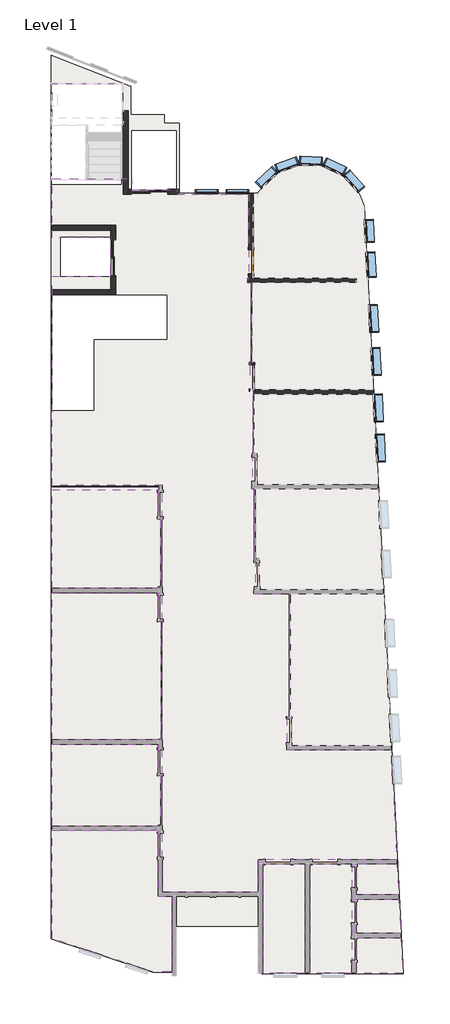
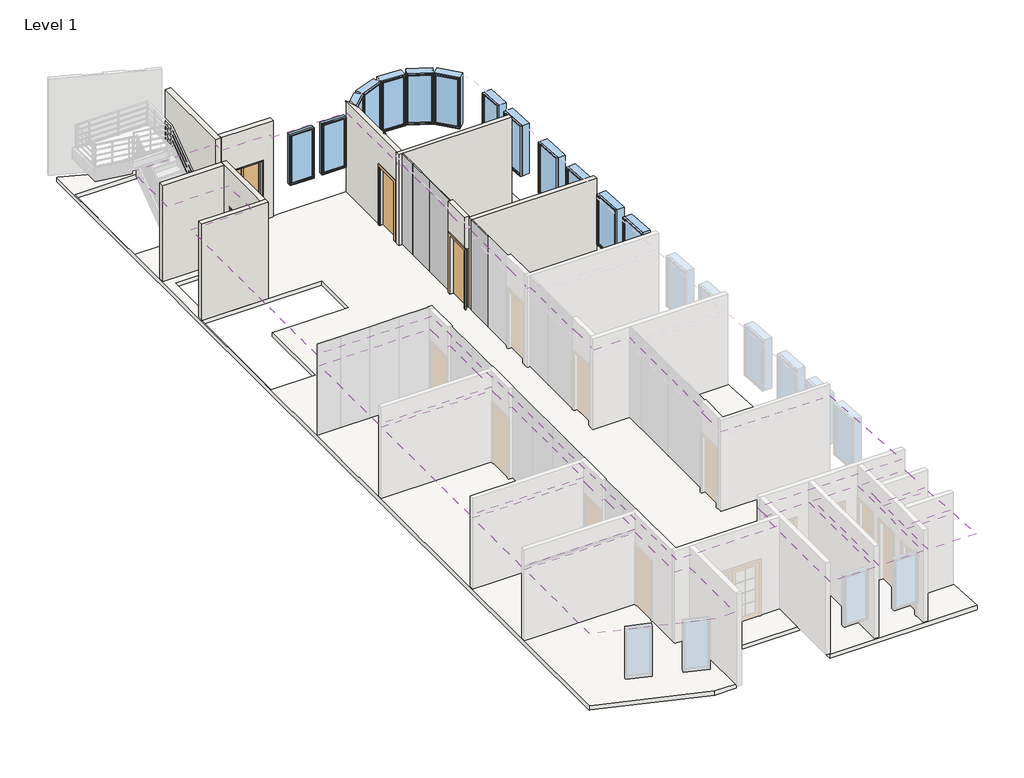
# One storey, part 2 of 4: 13 windows, 10 coverings, 9 walls, 4 doors, 4 plates, 1 proxy, 1 slab.
"""IFC4 building model written with IfcOpenShell, lengths in millimetres."""

from ifc_helpers import new_model, si_unit, frame, origin, place, context, project, spatial, polyline, circle_curve, outline, extrude, faceted_brep, transform, mapped, element, save
from ifc_brep_helpers import plane_surface, cylinder_surface, advanced_brep
from components import m_single_flush_0864_x_2134mm_191ab4f9, sliding_door_2_panel_aus_f73f6a40, system_panel_glazed_2a0647fb, system_panel_glazed_84f5b725, system_panel_glazed_2528ea48, system_panel_glazed_62de9183, m_fixed_0815_x_1830mm_2_6a11e188, m_fixed_0815_x_1830mm_2_422ed95c, m_fixed_0915_x_1830mm_9602f45c, m_fixed_1000_x_1830mm_2_ae03b894

model = new_model("IFC4")

# Units and contexts
model_context = context("Model", 3, world=origin())
ifc_project = project(units=[si_unit("LENGTHUNIT", "METRE", prefix="MILLI")], contexts=[model_context])

# Site, building, storey
site = spatial("IfcSite", under=ifc_project)
building = spatial("IfcBuilding", under=site)
storey = spatial("IfcBuildingStorey", under=building, Name="Level 1", Elevation=4500.0)

# Proxy
placement = place(None, origin())
element("IfcBuildingElementProxy", 1, Name="Reveal", ObjectType="Reveal", at=placement, inside=storey, context=model_context, shape_type="SweptSolid", body=[
    extrude(outline(polyline([(7125.5392732, 8006.7405588), (7175.5392732, 8006.7405588), (7175.5392732, 7956.7405588), (7125.5392732, 7956.7405588), (7125.5392732, 8006.7405588)])), frame((0.0, 0.0, 4500.0), z_axis=(0.0, 0.0, 1.0), x_axis=(1.0, 0.0, 0.0)), (0.0, 0.0, 1.0), 3300.0),
])

# Coverings
element("IfcCovering", 2, ObjectType="600 x 600mm Grid", at=placement, inside=storey, context=model_context, shape_type="SweptSolid", body=[
    extrude(outline(polyline([(10692.5716703, -17945.5937279), (9172.571739, -17945.5937279), (9172.571739, -14027.5279318), (10692.5716703, -14027.5279318), (10692.5716703, -17945.5937279)])), frame((0.0, 0.0, 7100.0), z_axis=(0.0, 0.0, 1.0), x_axis=(1.0, 0.0, 0.0)), (0.0, 0.0, 1.0), 52.0),
])
element("IfcCovering", 3, ObjectType="600 x 600mm Grid", at=placement, inside=storey, context=model_context, shape_type="SweptSolid", body=[
    extrude(outline(polyline([(10852.5716703, -14027.5279318), (12305.1044502, -14027.5279318), (12361.6220521, -15137.5279318), (10852.5716703, -15137.5279318), (10852.5716703, -14027.5279318)])), frame((0.0, 0.0, 7100.0), z_axis=(0.0, 0.0, 1.0), x_axis=(1.0, 0.0, 0.0)), (0.0, 0.0, 1.0), 52.0),
])
element("IfcCovering", 4, ObjectType="600 x 600mm Grid", at=placement, inside=storey, context=model_context, shape_type="SweptSolid", body=[
    extrude(outline(polyline([(12369.7687334, -15297.5279318), (12431.8871787, -16517.5279318), (10852.5716703, -16517.5279318), (10852.5716703, -15297.5279318), (12369.7687334, -15297.5279318)])), frame((0.0, 0.0, 7100.0), z_axis=(0.0, 0.0, 1.0), x_axis=(1.0, 0.0, 0.0)), (0.0, 0.0, 1.0), 52.0),
])
element("IfcCovering", 5, ObjectType="600 x 600mm Grid", at=placement, inside=storey, context=model_context, shape_type="SweptSolid", body=[
    extrude(outline(polyline([(12440.0338601, -16677.5279318), (12504.5996599, -17945.5937279), (10852.5716703, -17945.5937279), (10852.5716703, -16677.5279318), (12440.0338601, -16677.5279318)])), frame((0.0, 0.0, 7100.0), z_axis=(0.0, 0.0, 1.0), x_axis=(1.0, 0.0, 0.0)), (0.0, 0.0, 1.0), 52.0),
])
element("IfcCovering", 6, ObjectType="600 x 600mm Grid", at=placement, inside=storey, context=model_context, shape_type="SweptSolid", body=[
    extrude(outline(polyline([(3550.1139966, -17890.1949362), (-50.0000039, -16704.4650439), (-50.0000039, -12823.8791407), (3749.6376114, -12823.8791407), (3749.6376114, -15185.1933026), (4250.0200506, -15185.1933026), (4250.0200506, -17890.1949362), (3550.1139966, -17890.1949362)])), frame((0.0, 0.0, 7100.0), z_axis=(0.0, 0.0, 1.0), x_axis=(1.0, 0.0, 0.0)), (0.0, 0.0, 1.0), 52.0),
])
element("IfcCovering", 7, ObjectType="600 x 600mm Grid", at=placement, inside=storey, context=model_context, shape_type="SweptSolid", body=[
    extrude(outline(polyline([(-50.0000039, -12673.8791407), (-50.0000039, -9737.5773389), (3749.6376114, -9737.5773389), (3749.6376114, -10857.1675364), (3824.6376114, -10857.1675364), (3824.6376114, -11957.1675364), (3824.6376114, -12673.8791407), (-50.0000039, -12673.8791407)])), frame((0.0, 0.0, 7100.0), z_axis=(0.0, 0.0, 1.0), x_axis=(1.0, 0.0, 0.0)), (0.0, 0.0, 1.0), 52.0),
])
element("IfcCovering", 8, ObjectType="600 x 600mm Grid", at=placement, inside=storey, context=model_context, shape_type="SweptSolid", body=[
    extrude(outline(polyline([(-50.0000039, -9587.5773389), (-50.0000039, -4303.7038617), (3749.6376114, -4303.7038617), (3749.6376114, -5337.1675364), (3834.6376114, -5337.1675364), (3834.6376114, -6537.1675364), (3834.6376114, -7737.1675364), (3834.6376114, -8940.5298497), (3834.6376114, -9587.5773389), (-50.0000039, -9587.5773389)])), frame((0.0, 0.0, 7100.0), z_axis=(0.0, 0.0, 1.0), x_axis=(1.0, 0.0, 0.0)), (0.0, 0.0, 1.0), 52.0),
])
element("IfcCovering", 9, ObjectType="600 x 600mm Grid", at=placement, inside=storey, context=model_context, shape_type="SweptSolid", body=[
    extrude(outline(polyline([(-50.0000039, -4153.7038617), (-50.0000039, -617.1675364), (3749.6376114, -617.1675364), (3749.6376114, -1677.1675364), (3824.6376114, -1677.1675364), (3824.6376114, -2977.1675364), (3824.6376114, -4153.7038617), (-50.0000039, -4153.7038617)])), frame((0.0, 0.0, 7100.0), z_axis=(0.0, 0.0, 1.0), x_axis=(1.0, 0.0, 0.0)), (0.0, 0.0, 1.0), 52.0),
])
element("IfcCovering", 10, ObjectType="600 x 600mm Grid", at=placement, inside=storey, context=model_context, shape_type="SweptSolid", body=[
    extrude(outline(polyline([(9012.571739, -17945.5937279), (7490.0200629, -17945.5937279), (7490.0200629, -14027.5279318), (9012.571739, -14027.5279318), (9012.571739, -17945.5937279)])), frame((0.0, 0.0, 7100.0), z_axis=(0.0, 0.0, 1.0), x_axis=(1.0, 0.0, 0.0)), (0.0, 0.0, 1.0), 52.0),
])
element("IfcCovering", 11, ObjectType="600 x 600mm Grid", at=placement, inside=storey, context=model_context, shape_type="SweptSolid", body=[
    extrude(outline(polyline([(3899.6376114, -15035.1933026), (3899.6376114, -12637.1675364), (3874.1376114, -12637.1675364), (3874.1376114, -10857.1675364), (3899.6376114, -10857.1675364), (3899.6376114, -9557.1675364), (3884.1376114, -9557.1675364), (3884.1376114, -5337.1675364), (3899.6376114, -5337.1675364), (3899.6376114, -4097.1675364), (3874.1376114, -4097.1675364), (3874.1376114, -1677.1675364), (3899.6376114, -1677.1675364), (3899.6376114, -467.1675364), (-50.0000039, -467.1675364), (-50.0000039, 6351.9438364), (-50.0000039, 7031.9438364), (1989.9999961, 7031.9438364), (2049.9999961, 7031.9438364), (2049.9999961, 8411.9438364), (-50.0000039, 8411.9438364), (-50.0000039, 10511.9438364), (2429.9999961, 10511.9438364), (2800.0008657, 10511.9438364), (2800.0008657, 10131.7405588), (4440.0008657, 10131.7405588), (4440.0008657, 9971.7405588), (7000.0008657, 9971.7405588), (7000.0008657, 6951.7405588), (6960.0008657, 6951.7405588), (6960.0008657, 6798.0466284), (7080.0008657, 6798.0466284), (7080.0008657, 3958.0466284), (7035.1048556, 3958.0466284), (7035.1048556, 2991.3126445), (7135.1048556, 2991.3126445), (7145.1048556, 2991.3126445), (7145.1048556, 2806.3126445), (7145.1048556, 686.3126445), (7122.8570765, 686.3126445), (7122.8570765, -443.7647178), (7102.8570765, -443.7647178), (7102.8570765, -593.8224093), (7199.8137467, -593.8224093), (7199.8137467, -3107.2928434), (7224.8137467, -3107.2928434), (7224.8137467, -4205.3047697), (7177.3194387, -4205.3047697), (7177.3194387, -4355.3047697), (8450.4667664, -4355.3047697), (8450.4667664, -8765.3047697), (8360.4667664, -8765.3047697), (8360.4667664, -9940.0867626), (12096.9851954, -9940.0867626), (12297.4042284, -13877.5279318), (7341.4929603, -13877.5279318), (7341.4929603, -15035.1933026), (3899.6376114, -15035.1933026)])), frame((0.0, 0.0, 7400.0), z_axis=(0.0, 0.0, 1.0), x_axis=(1.0, 0.0, 0.0)), (0.0, 0.0, 1.0), 52.0),
])

# Doors
m_single_flush_0864_x_2134mm_shape = m_single_flush_0864_x_2134mm_191ab4f9(model_context)
element("IfcDoor", 12, ObjectType="M_Single-Flush : 0864 x 2134mm", at=placement, inside=storey, context=model_context, shape_type="MappedRepresentation", body=[
    mapped(m_single_flush_0864_x_2134mm_shape, transform((7075.5392732, 7549.7405588, 4500.0), x_axis=(0.0, -1.0, 0.0), y_axis=(1.0, 0.0, 0.0), z_axis=(0.0, 0.0, 1.0))),
])
element("IfcDoor", 13, ObjectType="M_Single-Flush : 0864 x 2134mm", at=placement, inside=storey, context=model_context, shape_type="MappedRepresentation", body=[
    mapped(m_single_flush_0864_x_2134mm_shape, transform((7110.1048556, 3423.3126445, 4500.0), x_axis=(0.0, -1.0, 0.0), y_axis=(1.0, 0.0, 0.0), z_axis=(0.0, 0.0, 1.0))),
])
sliding_door_2_panel_aus_shape = sliding_door_2_panel_aus_f73f6a40(model_context)
element("IfcDoor", 14, ObjectType="Sliding Door - 2 Panel (AUS) : elavator door", at=placement, inside=storey, context=model_context, shape_type="MappedRepresentation", body=[
    mapped(sliding_door_2_panel_aus_shape, transform((3525.434997, 10046.9423839, 4500.0), x_axis=(-1.0, 0.0, 0.0), y_axis=(0.0, -1.0, 0.0), z_axis=(0.0, 0.0, 1.0))),
])
element("IfcDoor", 15, ObjectType="Sliding Door - 2 Panel (AUS) : elavator door", at=placement, inside=storey, context=model_context, shape_type="MappedRepresentation", body=[
    mapped(sliding_door_2_panel_aus_shape, transform((2139.9709975, 7777.6976347, 4500.0), x_axis=(0.0, -1.0, 0.0), y_axis=(1.0, 0.0, 0.0), z_axis=(0.0, 0.0, 1.0))),
])

# Plates
system_panel_glazed_shape = system_panel_glazed_2a0647fb(model_context)
element("IfcPlate", 16, ObjectType="System Panel : Glazed", at=placement, inside=storey, context=model_context, shape_type="MappedRepresentation", body=[
    mapped(system_panel_glazed_shape, transform((7197.8570765, 2304.8200321, 4500.0), x_axis=(0.0, 1.0, 0.0), y_axis=(-1.0, 0.0, 0.0), z_axis=(0.0, 0.0, 1.0))),
])
system_panel_glazed_2_shape = system_panel_glazed_84f5b725(model_context)
element("IfcPlate", 17, ObjectType="System Panel : Glazed", at=placement, inside=storey, context=model_context, shape_type="MappedRepresentation", body=[
    mapped(system_panel_glazed_2_shape, transform((7130.5392732, 4570.7828627, 4500.0), x_axis=(0.0, 1.0, 0.0), y_axis=(-1.0, 0.0, 0.0), z_axis=(0.0, 0.0, 1.0))),
])
system_panel_glazed_3_shape = system_panel_glazed_2528ea48(model_context)
element("IfcPlate", 18, ObjectType="System Panel : Glazed", at=placement, inside=storey, context=model_context, shape_type="MappedRepresentation", body=[
    mapped(system_panel_glazed_3_shape, transform((7130.5392732, 5670.7828627, 4500.0), x_axis=(0.0, 1.0, 0.0), y_axis=(-1.0, 0.0, 0.0), z_axis=(0.0, 0.0, 1.0))),
])
system_panel_glazed_4_shape = system_panel_glazed_62de9183(model_context)
element("IfcPlate", 19, ObjectType="System Panel : Glazed", at=placement, inside=storey, context=model_context, shape_type="MappedRepresentation", body=[
    mapped(system_panel_glazed_4_shape, transform((7130.5392732, 6484.5955529, 4500.0), x_axis=(0.0, 1.0, 0.0), y_axis=(-1.0, 0.0, 0.0), z_axis=(0.0, 0.0, 1.0))),
])

# Slab
element("IfcSlab", 20, ObjectType="Generic 150mm", at=placement, inside=storey, context=model_context, shape_type="AdvancedBrep", body=[
    advanced_brep(
    [(12535.6568577, -17965.5937279, 4350.0), (12505.6179951, -17965.5937279, 4350.0), (7460.0200629, -17965.5937279, 4350.0), (7460.0200629, -17945.5937279, 4350.0), (7460.0200629, -16255.1937279, 4350.0), (4280.0200506, -16255.1937279, 4350.0), (4280.0200506, -17910.1949362, 4350.0), (4250.0200506, -17910.1949362, 4350.0), (3546.9051875, -17910.1949362, 4350.0), (-50.0000039, -16725.521894, 4350.0), (-80.0000039, -16715.6411245, 4350.0), (-80.0000039, 6751.9670663, 4350.0), (-80.0000039, 6931.9670663, 4350.0), (-80.0000039, 8531.9436159, 4350.0), (-80.0000039, 8711.9436159, 4350.0), (-80.0000039, 9089.4957276, 4350.0), (-80.0000039, 9269.4957276, 4350.0), (-80.0000039, 14915.2577927, 4350.0), (-80.0000039, 14947.4914079, 4350.0), (-50.0290025, 14935.7127261, 4350.0), (2740.0008706, 13839.2237105, 4350.0), (2770.0008706, 13827.4336322, 4350.0), (2770.0008706, 12981.9409286, 4350.0), (2770.0008706, 12811.9409286, 4350.0), (3860.156273, 12811.9409286, 4350.0), (3960.156273, 12811.9409286, 4350.0), (3960.156273, 12681.9409286, 4350.0), (3960.156273, 12511.9409286, 4350.0), (4500.0008952, 12511.9409286, 4350.0), (4500.0008952, 12481.9409286, 4350.0), (4500.0008952, 10001.7405588, 4350.0), (4670.0008952, 10001.7405588, 4350.0), (7318.9004405, 10001.7405588, 4350.0), (7398.5356925, 10131.7451239, 4350.0), (11135.2678798, 9537.9045335, 4350.0), (4400.153558, 12231.9409286, 4350.0), (2800.0008657, 12231.9409286, 4350.0), (2800.0008657, 10131.9436225, 4350.0), (2800.0008657, 10131.7405588, 4350.0), (4399.6302337, 10131.7405588, 4350.0), (4400.153558, 10131.7405588, 4350.0), (2050.0008632, 8431.9409233, 4350.0), (250.2948674, 8431.9409233, 4350.0), (250.2948674, 7031.9409165, 4350.0), (2050.0008632, 7031.9409165, 4350.0), (-50.2184072, 6351.9438364, 4350.0), (-50.2184072, 2226.9438392, 4350.0), (-50.0000039, 2226.9438392, 4350.0), (1447.7916679, 2226.9438392, 4350.0), (1447.7916679, 4776.9438392, 4350.0), (4055.0000043, 4776.9438392, 4350.0), (4055.0000043, 6351.9438364, 4350.0), (-50.0000039, 6351.9438364, 4350.0), (2476.8607589, 13901.5570443, 4350.0), (2419.6668671, 13901.5570443, 4350.0), (-50.0000039, 13901.5570443, 4350.0), (-50.0000039, 12568.8506586, 4350.0), (-60.0290025, 12568.8506586, 4350.0), (-60.0290025, 10328.8506586, 4350.0), (-50.0000039, 10328.8506586, 4350.0), (2419.6668671, 10328.8506586, 4350.0), (2419.6668671, 10481.5722364, 4350.0), (2476.8607589, 10481.5722364, 4350.0), (7460.0200629, -17965.5937279, 4500.0), (12505.6179951, -17965.5937279, 4500.0), (12535.6568577, -17965.5937279, 4500.0), (11135.2678798, 9537.9045335, 4500.0), (7398.5356925, 10131.7451239, 4500.0), (7318.9004405, 10001.7405588, 4500.0), (4670.0008952, 10001.7405588, 4500.0), (4500.0008952, 10001.7405588, 4500.0), (4500.0008952, 12481.9409286, 4500.0), (4500.0008952, 12511.9409286, 4500.0), (3960.156273, 12511.9409286, 4500.0), (3960.156273, 12681.9409286, 4500.0), (3960.156273, 12811.9409286, 4500.0), (3860.156273, 12811.9409286, 4500.0), (2770.0008706, 12811.9409286, 4500.0), (2770.0008706, 12981.9409286, 4500.0), (2770.0008706, 13827.4336322, 4500.0), (2740.0008706, 13839.2237105, 4500.0), (-50.0290025, 14935.7127261, 4500.0), (-80.0000039, 14947.4914079, 4500.0), (-80.0000039, 14915.2577927, 4500.0), (-80.0000039, 9269.4957276, 4500.0), (-80.0000039, 9089.4957276, 4500.0), (-80.0000039, 8711.9436159, 4500.0), (-80.0000039, 8531.9436159, 4500.0), (-80.0000039, 6931.9670663, 4500.0), (-80.0000039, 6751.9670663, 4500.0), (-80.0000039, -16715.6411245, 4500.0), (-50.0000039, -16725.521894, 4500.0), (3546.9051875, -17910.1949362, 4500.0), (4250.0200506, -17910.1949362, 4500.0), (4280.0200506, -17910.1949362, 4500.0), (4280.0200506, -16255.1937279, 4500.0), (7460.0200629, -16255.1937279, 4500.0), (7460.0200629, -17945.5937279, 4500.0), (2800.0008657, 12231.9409286, 4500.0), (4400.153558, 12231.9409286, 4500.0), (4400.153558, 10131.7405588, 4500.0), (4399.6302337, 10131.7405588, 4500.0), (2800.0008657, 10131.7405588, 4500.0), (2800.0008657, 10131.9436225, 4500.0), (250.2948674, 8431.9409233, 4500.0), (2050.0008632, 8431.9409233, 4500.0), (2050.0008632, 7031.9409165, 4500.0), (250.2948674, 7031.9409165, 4500.0), (-50.2184072, 2226.9438392, 4500.0), (-50.2184072, 6351.9438364, 4500.0), (-50.0000039, 6351.9438364, 4500.0), (4055.0000043, 6351.9438364, 4500.0), (4055.0000043, 4776.9438392, 4500.0), (1447.7916679, 4776.9438392, 4500.0), (1447.7916679, 2226.9438392, 4500.0), (-50.0000039, 2226.9438392, 4500.0), (-50.0000039, 13901.5570443, 4500.0), (2419.6668671, 13901.5570443, 4500.0), (2476.8607589, 13901.5570443, 4500.0), (2476.8607589, 10481.5722364, 4500.0), (2419.6668671, 10481.5722364, 4500.0), (2419.6668671, 10328.8506586, 4500.0), (-50.0000039, 10328.8506586, 4500.0), (-60.0290025, 10328.8506586, 4500.0), (-60.0290025, 12568.8506586, 4500.0), (-50.0000039, 12568.8506586, 4500.0)],
    [
        (0, 1),
        (1, 2),
        (2, 3),
        (3, 4),
        (4, 5),
        (5, 6),
        (6, 7),
        (7, 8),
        (8, 9),
        (9, 10),
        (10, 11),
        (11, 12),
        (12, 13),
        (13, 14),
        (14, 15),
        (15, 16),
        (16, 17),
        (17, 18),
        (18, 19),
        (19, 20),
        (20, 21),
        (21, 22),
        (22, 23),
        (23, 24),
        (24, 25),
        (25, 26),
        (26, 27),
        (27, 28),
        (28, 29),
        (29, 30),
        (30, 31),
        (31, 32),
        (32, 33, circle_curve(frame((9131.2105116, 8980.9897456, 4350.0), z_axis=(0.0, 0.0, -1.0), x_axis=(1.0, 0.0, 0.0)), 2080.0000039)),
        (33, 34, circle_curve(frame((9131.2105116, 8980.9897456, 4350.0), z_axis=(0.0, 0.0, -1.0), x_axis=(1.0, 0.0, 0.0)), 2079.9999926)),
        (34, 0),
        (35, 36),
        (36, 37),
        (37, 38),
        (38, 39),
        (39, 40),
        (40, 35),
        (41, 42),
        (42, 43),
        (43, 44),
        (44, 41),
        (45, 46),
        (46, 47),
        (47, 48),
        (48, 49),
        (49, 50),
        (50, 51),
        (51, 52),
        (52, 45),
        (53, 54),
        (54, 55),
        (55, 56),
        (56, 57),
        (57, 58),
        (58, 59),
        (59, 60),
        (60, 61),
        (61, 62),
        (62, 53),
        (63, 64),
        (64, 65),
        (65, 66),
        (66, 67, circle_curve(frame((9131.2105116, 8980.9897456, 4500.0), z_axis=(0.0, 0.0, 1.0), x_axis=(1.0, 0.0, 0.0)), 2080.0000039)),
        (67, 68, circle_curve(frame((9131.2105116, 8980.9897456, 4500.0), z_axis=(0.0, 0.0, 1.0), x_axis=(1.0, 0.0, 0.0)), 2079.9999926)),
        (68, 69),
        (69, 70),
        (70, 71),
        (71, 72),
        (72, 73),
        (73, 74),
        (74, 75),
        (75, 76),
        (76, 77),
        (77, 78),
        (78, 79),
        (79, 80),
        (80, 81),
        (81, 82),
        (82, 83),
        (83, 84),
        (84, 85),
        (85, 86),
        (86, 87),
        (87, 88),
        (88, 89),
        (89, 90),
        (90, 91),
        (91, 92),
        (92, 93),
        (93, 94),
        (94, 95),
        (95, 96),
        (96, 97),
        (97, 63),
        (98, 99),
        (99, 100),
        (100, 101),
        (101, 102),
        (102, 103),
        (103, 98),
        (104, 105),
        (105, 106),
        (106, 107),
        (107, 104),
        (108, 109),
        (109, 110),
        (110, 111),
        (111, 112),
        (112, 113),
        (113, 114),
        (114, 115),
        (115, 108),
        (116, 117),
        (117, 118),
        (118, 119),
        (119, 120),
        (120, 121),
        (121, 122),
        (122, 123),
        (123, 124),
        (124, 125),
        (125, 116),
        (0, 65),
        (63, 2),
        (96, 4),
        (95, 5),
        (94, 6),
        (92, 8),
        (90, 10),
        (82, 18),
        (79, 21),
        (77, 23),
        (75, 25),
        (73, 27),
        (72, 28),
        (70, 30),
        (68, 32),
        (66, 34),
        (53, 118),
        (116, 55),
        (125, 56),
        (119, 62),
        (61, 120),
        (35, 99),
        (98, 36),
        (102, 38),
        (100, 40),
        (41, 105),
        (104, 42),
        (107, 43),
        (106, 44),
        (45, 109),
        (108, 46),
        (114, 48),
        (113, 49),
        (112, 50),
        (111, 51),
        (57, 124),
        (123, 58),
        (121, 60),
    ],
    [
        plane_surface(frame((7460.0200629, -17965.5937279, 4350.0), z_axis=(0.0, 0.0, -1.0), x_axis=(-1.0, 0.0, 0.0))),
        plane_surface(frame((7460.0200629, -17965.5937279, 4500.0), z_axis=(0.0, 0.0, 1.0), x_axis=(1.0, 0.0, 0.0))),
        plane_surface(frame((12535.6568577, -17965.5937279, 4350.0), z_axis=(0.0, -1.0, 0.0), x_axis=(0.0, 0.0, 1.0))),
        plane_surface(frame((7460.0200629, -17965.5937279, 4350.0), z_axis=(-1.0, 0.0, 0.0), x_axis=(0.0, 0.0, 1.0))),
        plane_surface(frame((7460.0200629, -16255.1937279, 4350.0), z_axis=(0.0, -1.0, 0.0), x_axis=(0.0, 0.0, 1.0))),
        plane_surface(frame((4280.0200506, -16255.1937279, 4350.0), z_axis=(1.0, 0.0, 0.0), x_axis=(0.0, 0.0, 1.0))),
        plane_surface(frame((4280.0200506, -17910.1949362, 4350.0), z_axis=(0.0, -1.0, 0.0), x_axis=(0.0, 0.0, 1.0))),
        plane_surface(frame((3546.9051875, -17910.1949362, 4350.0), z_axis=(-0.31282835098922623, -0.94980967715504, 0.0), x_axis=(0.0, 0.0, 1.0))),
        plane_surface(frame((-80.0000039, -16715.6411245, 4350.0), z_axis=(-1.0, 0.0, 0.0), x_axis=(0.0, 0.0, 1.0))),
        plane_surface(frame((-80.0000039, 14947.4914079, 4350.0), z_axis=(0.36576965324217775, 0.9307054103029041, 0.0), x_axis=(0.0, 0.0, 1.0))),
        plane_surface(frame((2770.0008706, 13827.4336322, 4350.0), z_axis=(1.0, 0.0, 0.0), x_axis=(0.0, 0.0, 1.0))),
        plane_surface(frame((2770.0008706, 12811.9409286, 4350.0), z_axis=(0.0, 1.0, 0.0), x_axis=(0.0, 0.0, 1.0))),
        plane_surface(frame((3960.156273, 12811.9409286, 4350.0), z_axis=(1.0, 0.0, 0.0), x_axis=(0.0, 0.0, 1.0))),
        plane_surface(frame((3960.156273, 12511.9409286, 4350.0), z_axis=(0.0, 1.0, 0.0), x_axis=(0.0, 0.0, 1.0))),
        plane_surface(frame((4500.0008952, 12511.9409286, 4350.0), z_axis=(1.0, 0.0, 0.0), x_axis=(0.0, 0.0, 1.0))),
        plane_surface(frame((4500.0008952, 10001.7405588, 4350.0), z_axis=(0.0, 1.0, 0.0), x_axis=(0.0, 0.0, 1.0))),
        cylinder_surface(frame((9131.2105116, 8980.9897456, 4500.0), z_axis=(0.0, 0.0, -1.0), x_axis=(1.0, 0.0, 0.0)), 2080.0000039),
        plane_surface(frame((11135.2678798, 9537.9045335, 4350.0), z_axis=(0.9987062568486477, 0.050850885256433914, 0.0), x_axis=(0.0, 0.0, 1.0))),
        plane_surface(frame((2476.8607589, 13901.5570443, 4350.0), z_axis=(0.0, -1.0, 0.0), x_axis=(0.0, 0.0, 1.0))),
        plane_surface(frame((-50.0000039, 13901.5570443, 4350.0), z_axis=(1.0, 0.0, 0.0), x_axis=(0.0, 0.0, 1.0))),
        plane_surface(frame((-50.0000039, 10481.5722364, 4350.0), z_axis=(0.0, 1.0, 0.0), x_axis=(0.0, 0.0, 1.0))),
        plane_surface(frame((2476.8607589, 10481.5722364, 4350.0), z_axis=(-1.0, 0.0, 0.0), x_axis=(0.0, 0.0, 1.0))),
        plane_surface(frame((4400.153558, 12231.9409286, 4350.0), z_axis=(0.0, -1.0, 0.0), x_axis=(0.0, 0.0, 1.0))),
        plane_surface(frame((2800.0008657, 12231.9409286, 4350.0), z_axis=(1.0, 0.0, 0.0), x_axis=(0.0, 0.0, 1.0))),
        plane_surface(frame((2800.0008657, 10131.7405588, 4350.0), z_axis=(0.0, 1.0, 0.0), x_axis=(0.0, 0.0, 1.0))),
        plane_surface(frame((4400.153558, 10131.7405588, 4350.0), z_axis=(-1.0, 0.0, 0.0), x_axis=(0.0, 0.0, 1.0))),
        plane_surface(frame((2050.0008632, 8431.9409233, 4350.0), z_axis=(0.0, -1.0, 0.0), x_axis=(0.0, 0.0, 1.0))),
        plane_surface(frame((250.2948674, 8431.9409233, 4350.0), z_axis=(1.0, 0.0, 0.0), x_axis=(0.0, 0.0, 1.0))),
        plane_surface(frame((250.2948674, 7031.9409165, 4350.0), z_axis=(0.0, 1.0, 0.0), x_axis=(0.0, 0.0, 1.0))),
        plane_surface(frame((2050.0008632, 7031.9409165, 4350.0), z_axis=(-1.0, 0.0, 0.0), x_axis=(0.0, 0.0, 1.0))),
        plane_surface(frame((-50.2184072, 6351.9438364, 4350.0), z_axis=(1.0, 0.0, 0.0), x_axis=(0.0, 0.0, 1.0))),
        plane_surface(frame((-50.2184072, 2226.9438392, 4350.0), z_axis=(0.0, 1.0, 0.0), x_axis=(0.0, 0.0, 1.0))),
        plane_surface(frame((1447.7916679, 2226.9438392, 4350.0), z_axis=(-1.0, 0.0, 0.0), x_axis=(0.0, 0.0, 1.0))),
        plane_surface(frame((1447.7916679, 4776.9438392, 4350.0), z_axis=(0.0, 1.0, 0.0), x_axis=(0.0, 0.0, 1.0))),
        plane_surface(frame((4055.0000043, 4776.9438392, 4350.0), z_axis=(-1.0, 0.0, 0.0), x_axis=(0.0, 0.0, 1.0))),
        plane_surface(frame((4055.0000043, 6351.9438364, 4350.0), z_axis=(0.0, -1.0, 0.0), x_axis=(0.0, 0.0, 1.0))),
        plane_surface(frame((-60.0290025, 12568.8506586, 26804.8), z_axis=(1.0, 0.0, 0.0), x_axis=(0.0, 0.0, -1.0))),
        plane_surface(frame((-60.0290025, 10328.8506586, 26804.8), z_axis=(0.0, 1.0, 0.0), x_axis=(0.0, 0.0, -1.0))),
        plane_surface(frame((2419.6668671, 10328.8506586, 26804.8), z_axis=(-1.0, 0.0, 0.0), x_axis=(0.0, 0.0, -1.0))),
        plane_surface(frame((2419.6668671, 12568.8506586, 26804.8), z_axis=(0.0, -1.0, 0.0), x_axis=(0.0, 0.0, -1.0))),
    ],
    [
        (0, [[1, 2, 3, 4, 5, 6, 7, 8, 9, 10, 11, 12, 13, 14, 15, 16, 17, 18, 19, 20, 21, 22, 23, 24, 25, 26, 27, 28, 29, 30, 31, 32, 33, 34, 35], [36, 37, 38, 39, 40, 41], [42, 43, 44, 45], [46, 47, 48, 49, 50, 51, 52, 53], [54, 55, 56, 57, 58, 59, 60, 61, 62, 63]]),
        (1, [[64, 65, 66, 67, 68, 69, 70, 71, 72, 73, 74, 75, 76, 77, 78, 79, 80, 81, 82, 83, 84, 85, 86, 87, 88, 89, 90, 91, 92, 93, 94, 95, 96, 97, 98], [99, 100, 101, 102, 103, 104], [105, 106, 107, 108], [109, 110, 111, 112, 113, 114, 115, 116], [117, 118, 119, 120, 121, 122, 123, 124, 125, 126]]),
        (2, [[-2, -1, 127, -65, -64, 128]]),
        (3, [[-4, -3, -128, -98, -97, 129]]),
        (4, [[-5, -129, -96, 130]]),
        (5, [[-6, -130, -95, 131]]),
        (6, [[-8, -7, -131, -94, -93, 132]]),
        (7, [[-10, -9, -132, -92, -91, 133]]),
        (8, [[-18, -17, -16, -15, -14, -13, -12, -11, -133, -90, -89, -88, -87, -86, -85, -84, -83, 134]]),
        (9, [[-21, -20, -19, -134, -82, -81, -80, 135]]),
        (10, [[-23, -22, -135, -79, -78, 136]]),
        (11, [[-25, -24, -136, -77, -76, 137]]),
        (12, [[-27, -26, -137, -75, -74, 138]]),
        (13, [[-28, -138, -73, 139]]),
        (14, [[-30, -29, -139, -72, -71, 140]]),
        (15, [[-32, -31, -140, -70, -69, 141]]),
        (16, [[-34, -33, -141, -68, -67, 142]]),
        (17, [[-35, -142, -66, -127]]),
        (18, [[-55, -54, 143, -118, -117, 144]]),
        (19, [[-144, -126, 145, -56]]),
        (20, [[146, -62, 147, -120]]),
        (21, [[-63, -146, -119, -143]]),
        (22, [[-36, 148, -99, 149]]),
        (23, [[-38, -37, -149, -104, -103, 150]]),
        (24, [[-40, -39, -150, -102, -101, 151]]),
        (25, [[-41, -151, -100, -148]]),
        (26, [[-42, 152, -105, 153]]),
        (27, [[-43, -153, -108, 154]]),
        (28, [[-44, -154, -107, 155]]),
        (29, [[-45, -155, -106, -152]]),
        (30, [[-46, 156, -109, 157]]),
        (31, [[-48, -47, -157, -116, -115, 158]]),
        (32, [[-49, -158, -114, 159]]),
        (33, [[-50, -159, -113, 160]]),
        (34, [[-51, -160, -112, 161]]),
        (35, [[-53, -52, -161, -111, -110, -156]]),
        (36, [[162, -124, 163, -58]]),
        (37, [[-163, -123, -122, 164, -60, -59]]),
        (38, [[-164, -121, -147, -61]]),
        (39, [[-162, -57, -145, -125]]),
    ],
),
])

# Walls
element("IfcWall", 21, ObjectType="Generic - 15cm-gypsu-2boith", at=placement, inside=storey, context=model_context, shape_type="SweptSolid", body=[
    extrude(outline(polyline([(7165.5392732, 2957.3506855), (11440.2894881, 2957.3506855), (11447.9270018, 2807.3506855), (7165.5392732, 2807.3506855), (7165.5392732, 2957.3506855)])), frame((0.0, 0.0, 4500.0), z_axis=(0.0, 0.0, 1.0), x_axis=(1.0, 0.0, 0.0)), (0.0, 0.0, 1.0), 3300.0),
])
element("IfcWall", 22, ObjectType="Generic - 15cm-gypsu-2boith", at=placement, inside=storey, context=model_context, shape_type="Brep", body=[
    faceted_brep([(10837.7498255, 6956.2694615, 4500.0), (7150.5392732, 6948.450989, 4500.0), (7000.5392732, 6948.1329245, 4500.0), (6953.2178403, 6948.0325827, 4500.0), (6953.2178403, 6948.0325827, 7800.0), (7000.5392732, 6948.1329245, 7800.0), (7150.5392732, 6948.450989, 7800.0), (10837.7498255, 6956.2694615, 7800.0), (10838.0678893, 6806.2697987, 4500.0), (10838.0678893, 6806.2697987, 7800.0), (6953.5359041, 6798.0329199, 7800.0), (6953.5359041, 6798.0329199, 4500.0)], [[[0, 1, 2, 3, 4, 5, 6, 7]], [[8, 9, 10, 11]], [[3, 2, 1, 0, 8, 11]], [[4, 3, 11, 10]], [[7, 6, 5, 4, 10, 9]], [[0, 7, 9, 8]]]),
])
element("IfcWall", 23, ObjectType="Generic - 15cm-granit&gypsum", at=placement, inside=storey, context=model_context, shape_type="Brep", body=[
    faceted_brep([(7000.5392732, 6948.1329245, 7800.0), (7000.5392732, 10018.8433445, 7800.0), (7000.5392732, 10018.8433445, 7759.0), (7000.5392732, 9981.7405588, 7759.0), (7000.5392732, 9981.7405588, 4500.0), (7000.5392732, 7981.7405588, 4500.0), (7000.5392732, 7981.7405588, 6634.0), (7000.5392732, 7117.7405588, 6634.0), (7000.5392732, 7117.7405588, 4500.0), (7000.5392732, 6948.1329245, 4500.0), (7150.5392732, 6948.450989, 7800.0), (7150.5392732, 6948.450989, 4500.0), (7150.5392732, 7117.7405588, 4500.0), (7150.5392732, 7117.7405588, 6634.0), (7150.5392732, 7956.7405588, 6634.0), (7150.5392732, 7956.7405588, 7800.0), (7150.5392732, 9981.7405588, 7759.0), (7150.5392732, 9509.6119752, 7759.0), (7150.5392732, 9509.6119752, 7800.0), (7150.5392732, 8006.7405588, 7800.0), (7150.5392732, 8006.7405588, 4500.0), (7150.5392732, 9981.7405588, 4500.0), (7125.5392732, 8006.7405588, 4500.0), (7125.5392732, 7981.7405588, 4500.0), (7125.5392732, 7956.7405588, 7800.0), (7125.5392732, 8006.7405588, 7800.0), (7125.5392732, 7981.7405588, 6634.0), (7125.5392732, 7956.7405588, 6634.0), (7011.4683286, 9981.7405588, 7759.0)], [[[0, 1, 2, 3, 4, 5, 6, 7, 8, 9]], [[10, 11, 12, 13, 14, 15]], [[16, 17, 18, 19, 20, 21]], [[11, 9, 8, 12]], [[5, 4, 21, 20, 22, 23]], [[1, 0, 10, 15, 24, 25, 19, 18]], [[0, 9, 11, 10]], [[13, 12, 8, 7]], [[7, 6, 26, 27, 14, 13]], [[6, 5, 23, 26]], [[3, 2, 28]], [[21, 4, 3, 28, 16]], [[1, 18, 17, 28, 2]], [[17, 16, 28]], [[25, 22, 20, 19]], [[27, 24, 15, 14]], [[22, 25, 24, 27, 26, 23]]]),
])
element("IfcWall", 24, ObjectType="Generic - 15cm-gypsu-2boith", at=placement, inside=storey, context=model_context, shape_type="SweptSolid", body=[
    extrude(outline(polyline([(3970.7828627, 7800.0), (3970.7828627, 4500.0), (3855.3126445, 4500.0), (3855.3126445, 6634.0), (2991.3126445, 6634.0), (2991.3126445, 7800.0), (3970.7828627, 7800.0)])), frame((7035.1048556, 0.0, 0.0), z_axis=(1.0, 0.0, 0.0), x_axis=(0.0, 1.0, 0.0)), (0.0, 0.0, 1.0), 150.0),
])
element("IfcWall", 25, ObjectType="Generic - 18cm-gypsu-2boith 2", at=placement, inside=storey, context=model_context, shape_type="Brep", body=[
    faceted_brep([(-50.0000039, 6359.4957281, 4500.0), (2229.9709975, 6359.4957281, 4500.0), (2229.9709975, 6359.4957281, 8000.0), (-50.0000039, 6359.4957281, 8000.0), (-50.0000039, 6539.4957281, 4500.0), (-50.0000039, 6539.4957281, 8000.0), (2049.9709975, 6539.4957281, 8000.0), (2229.9709975, 6539.4957281, 8000.0), (2229.9709975, 6539.4957281, 4500.0), (2049.9709975, 6539.4957281, 4500.0)], [[[0, 1, 2, 3]], [[4, 5, 6, 7, 8, 9]], [[1, 0, 4, 9, 8]], [[3, 2, 7, 6, 5]], [[0, 3, 5, 4]], [[2, 1, 8, 7]]]),
])
element("IfcWall", 26, ObjectType="Generic - 18cm-gypsu-2boith 2", at=placement, inside=storey, context=model_context, shape_type="Brep", body=[
    faceted_brep([(2229.9709975, 8861.9396335, 8000.0), (2229.9709975, 6539.4957281, 8000.0), (2229.9709975, 6539.4957281, 4500.0), (2229.9709975, 7001.9396335, 4500.0), (2229.9709975, 7001.9396335, 6683.0), (2229.9709975, 8381.9396335, 6683.0), (2229.9709975, 8381.9396335, 4500.0), (2229.9709975, 8861.9396335, 4500.0), (2049.9709975, 6539.4957281, 8000.0), (2049.9709975, 8681.9396335, 8000.0), (2049.9709975, 8861.9396335, 8000.0), (2049.9709975, 8861.9396335, 4500.0), (2049.9709975, 8681.9396335, 4500.0), (2049.9709975, 8381.9396335, 4500.0), (2049.9709975, 8381.9396335, 6683.0), (2049.9709975, 7001.9396335, 6683.0), (2049.9709975, 7001.9396335, 4500.0), (2049.9709975, 6539.4957281, 4500.0)], [[[0, 1, 2, 3, 4, 5, 6, 7]], [[8, 9, 10, 11, 12, 13, 14, 15, 16, 17]], [[2, 17, 16, 3]], [[11, 7, 6, 13, 12]], [[1, 0, 10, 9, 8]], [[2, 1, 8, 17]], [[0, 7, 11, 10]], [[5, 14, 13, 6]], [[14, 5, 4, 15]], [[15, 4, 3, 16]]]),
])
element("IfcWall", 27, ObjectType="Generic - 18cm-gypsu-2boith 2", at=placement, inside=storey, context=model_context, shape_type="SweptSolid", body=[
    extrude(outline(polyline([(-50.0000039, 8861.9396335), (2049.9709975, 8861.9396335), (2049.9709975, 8681.9396335), (-50.0000039, 8681.9396335), (-50.0000039, 8861.9396335)])), frame((0.0, 0.0, 4500.0), z_axis=(0.0, 0.0, 1.0), x_axis=(1.0, 0.0, 0.0)), (0.0, 0.0, 1.0), 3500.0),
])
element("IfcWall", 28, ObjectType="Generic - 18cm-gypsu-2boith 2", at=placement, inside=storey, context=model_context, shape_type="Brep", body=[
    faceted_brep([(2680.9917149, 9956.9423839, 4500.0), (2680.9917149, 10136.9423839, 4500.0), (2680.9917149, 12581.9436225, 4500.0), (2680.9917149, 12681.9436225, 4500.0), (2680.9917149, 12956.7405588, 4500.0), (2680.9917149, 12956.7405588, 8000.0), (2680.9917149, 10136.9423839, 8000.0), (2680.9917149, 9956.9423839, 8000.0), (2500.9917149, 9956.9423839, 4500.0), (2500.9917149, 9956.9423839, 8000.0), (2500.9917149, 12956.7405588, 8000.0), (2500.9917149, 12956.7405588, 4500.0)], [[[0, 1, 2, 3, 4, 5, 6, 7]], [[8, 9, 10, 11]], [[4, 3, 2, 1, 0, 8, 11]], [[5, 4, 11, 10]], [[7, 6, 5, 10, 9]], [[0, 7, 9, 8]]]),
])
element("IfcWall", 29, ObjectType="Generic - 18cm-gypsu-2boith 2", at=placement, inside=storey, context=model_context, shape_type="Brep", body=[
    faceted_brep([(4470.0008952, 9956.9423839, 8000.0), (2680.9917149, 9956.9423839, 8000.0), (2680.9917149, 9956.9423839, 4500.0), (2749.6769958, 9956.9423839, 4500.0), (2749.6769958, 9956.9423839, 6683.0), (4129.6769958, 9956.9423839, 6683.0), (4129.6769958, 9956.9423839, 4500.0), (4470.0008952, 9956.9423839, 4500.0), (2680.9917149, 10136.9423839, 8000.0), (4470.0008952, 10136.9423839, 8000.0), (4470.0008952, 10136.9423839, 4500.0), (4129.6769958, 10136.9423839, 4500.0), (4129.6769958, 10136.9423839, 6683.0), (2749.6769958, 10136.9423839, 6683.0), (2749.6769958, 10136.9423839, 4500.0), (2680.9917149, 10136.9423839, 4500.0), (4470.0008952, 9981.7405588, 4500.0)], [[[0, 1, 2, 3, 4, 5, 6, 7]], [[8, 9, 10, 11, 12, 13, 14, 15]], [[2, 15, 14, 3]], [[10, 16, 7, 6, 11]], [[1, 0, 9, 8]], [[2, 1, 8, 15]], [[7, 16, 10, 9, 0]], [[5, 12, 11, 6]], [[12, 5, 4, 13]], [[13, 4, 3, 14]]]),
])

# Windows
m_fixed_0815_x_1830mm_2_shape = m_fixed_0815_x_1830mm_2_6a11e188(model_context)
element("IfcWindow", 30, ObjectType="M_Fixed : 0815 x 1830mm 2", at=placement, inside=storey, context=model_context, shape_type="MappedRepresentation", body=[
    mapped(m_fixed_0815_x_1830mm_2_shape, transform((7632.1619119, 10574.3833019, 5095.0), x_axis=(-0.728340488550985, -0.6852153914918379, 0.0), y_axis=(0.6852153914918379, -0.728340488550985, 0.0), z_axis=(0.0, 0.0, 1.0))),
])
element("IfcWindow", 31, ObjectType="M_Fixed : 0815 x 1830mm 2", at=placement, inside=storey, context=model_context, shape_type="MappedRepresentation", body=[
    mapped(m_fixed_0815_x_1830mm_2_shape, transform((8360.3370879, 11028.3792772, 5095.0), x_axis=(-0.9358621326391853, -0.35236638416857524, 0.0), y_axis=(0.35236638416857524, -0.9358621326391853, 0.0), z_axis=(0.0, 0.0, 1.0))),
])
element("IfcWindow", 32, ObjectType="M_Fixed : 0815 x 1830mm 2", at=placement, inside=storey, context=model_context, shape_type="MappedRepresentation", body=[
    mapped(m_fixed_0815_x_1830mm_2_shape, transform((9221.8537356, 11166.8153415, 5095.0), x_axis=(-0.9991412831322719, 0.04143303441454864, 0.0), y_axis=(-0.04143303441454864, -0.9991412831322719, 0.0), z_axis=(0.0, 0.0, 1.0))),
])
element("IfcWindow", 33, ObjectType="M_Fixed : 0815 x 1830mm 2", at=placement, inside=storey, context=model_context, shape_type="MappedRepresentation", body=[
    mapped(m_fixed_0815_x_1830mm_2_shape, transform((10077.3989841, 10953.4950318, 5095.0), x_axis=(-0.901632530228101, 0.43250292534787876, 0.0), y_axis=(-0.43250292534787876, -0.901632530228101, 0.0), z_axis=(0.0, 0.0, 1.0))),
])
element("IfcWindow", 34, ObjectType="M_Fixed : 0815 x 1830mm 2", at=placement, inside=storey, context=model_context, shape_type="MappedRepresentation", body=[
    mapped(m_fixed_0815_x_1830mm_2_shape, transform((10765.875586, 10434.9222832, 5095.0), x_axis=(-0.6645928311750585, 0.7472057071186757, 0.0), y_axis=(-0.7472057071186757, -0.6645928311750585, 0.0), z_axis=(0.0, 0.0, 1.0))),
])
element("IfcWindow", 35, ObjectType="M_Fixed : 0815 x 1830mm 2", at=placement, inside=storey, context=model_context, shape_type="MappedRepresentation", body=[
    mapped(m_fixed_0815_x_1830mm_2_shape, transform((11323.5802195, 8651.6129446, 5095.0), x_axis=(-0.05085088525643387, 0.9987062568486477, 0.0), y_axis=(-0.9987062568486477, -0.05085088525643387, 0.0), z_axis=(0.0, 0.0, 1.0))),
])
m_fixed_0815_x_1830mm_2_2_shape = m_fixed_0815_x_1830mm_2_422ed95c(model_context)
element("IfcWindow", 36, ObjectType="M_Fixed : 0815 x 1830mm 2", at=placement, inside=storey, context=model_context, shape_type="MappedRepresentation", body=[
    mapped(m_fixed_0815_x_1830mm_2_2_shape, transform((5487.656273, 10069.7405588, 5095.0), x_axis=(-1.0, 0.0, 0.0), y_axis=(0.0, -1.0, 0.0), z_axis=(0.0, 0.0, 1.0))),
])
element("IfcWindow", 37, ObjectType="M_Fixed : 0815 x 1830mm 2", at=placement, inside=storey, context=model_context, shape_type="MappedRepresentation", body=[
    mapped(m_fixed_0815_x_1830mm_2_2_shape, transform((6587.656273, 10069.7405588, 5095.0), x_axis=(-1.0, 0.0, 0.0), y_axis=(0.0, -1.0, 0.0), z_axis=(0.0, 0.0, 1.0))),
])
m_fixed_0915_x_1830mm_shape = m_fixed_0915_x_1830mm_9602f45c(model_context)
element("IfcWindow", 38, ObjectType="M_Fixed : 0915 x 1830mm", at=placement, inside=storey, context=model_context, shape_type="MappedRepresentation", body=[
    mapped(m_fixed_0915_x_1830mm_shape, transform((11385.2300113, 7440.8172523, 5095.0), x_axis=(-0.05085088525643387, 0.9987062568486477, 0.0), y_axis=(-0.9987062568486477, -0.05085088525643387, 0.0), z_axis=(0.0, 0.0, 1.0))),
])
m_fixed_1000_x_1830mm_2_shape = m_fixed_1000_x_1830mm_2_ae03b894(model_context)
element("IfcWindow", 39, ObjectType="M_Fixed : 1000 x 1830mm 2", at=placement, inside=storey, context=model_context, shape_type="MappedRepresentation", body=[
    mapped(m_fixed_1000_x_1830mm_2_shape, transform((11646.9180896, 2301.2897922, 5095.0), x_axis=(-0.05085088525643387, 0.9987062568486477, 0.0), y_axis=(-0.9987062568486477, -0.05085088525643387, 0.0), z_axis=(0.0, 0.0, 1.0))),
])
element("IfcWindow", 40, ObjectType="M_Fixed : 1000 x 1830mm 2", at=placement, inside=storey, context=model_context, shape_type="MappedRepresentation", body=[
    mapped(m_fixed_1000_x_1830mm_2_shape, transform((11561.9971112, 3969.1292409, 5095.0), x_axis=(-0.05085088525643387, 0.9987062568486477, 0.0), y_axis=(-0.9987062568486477, -0.05085088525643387, 0.0), z_axis=(0.0, 0.0, 1.0))),
])
element("IfcWindow", 41, ObjectType="M_Fixed : 1000 x 1830mm 2", at=placement, inside=storey, context=model_context, shape_type="MappedRepresentation", body=[
    mapped(m_fixed_1000_x_1830mm_2_shape, transform((11483.6867479, 5507.1368764, 5095.0), x_axis=(-0.05085088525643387, 0.9987062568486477, 0.0), y_axis=(-0.9987062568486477, -0.05085088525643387, 0.0), z_axis=(0.0, 0.0, 1.0))),
])
element("IfcWindow", 42, ObjectType="M_Fixed : 1000 x 1830mm 2", at=placement, inside=storey, context=model_context, shape_type="MappedRepresentation", body=[
    mapped(m_fixed_1000_x_1830mm_2_shape, transform((11719.6348555, 873.1398452, 5095.0), x_axis=(-0.05085088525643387, 0.9987062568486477, 0.0), y_axis=(-0.9987062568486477, -0.05085088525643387, 0.0), z_axis=(0.0, 0.0, 1.0))),
])

save(model, "model.ifc")
